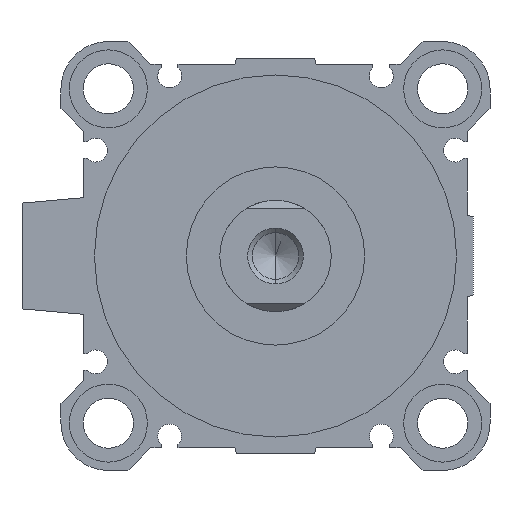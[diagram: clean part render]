
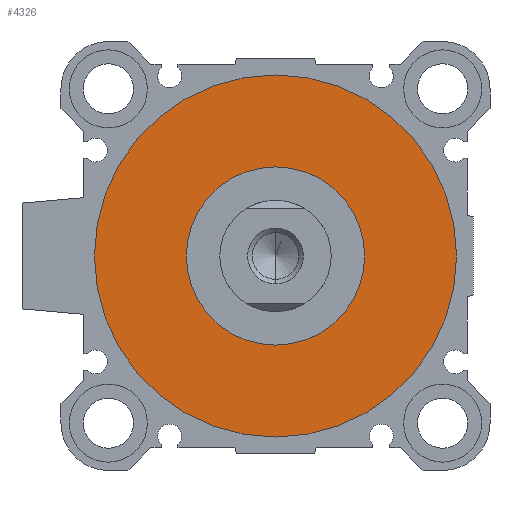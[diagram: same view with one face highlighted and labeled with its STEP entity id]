
A CAD part, left-side view. The second image highlights one B-rep face of the part: STEP entity #4326.
In plain terms, the highlighted planar face has unit normal (-1, 0, 0).
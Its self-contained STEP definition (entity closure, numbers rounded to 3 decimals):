
#15 = VERTEX_POINT ( 'NONE', #4257 ) ;
#125 = FACE_BOUND ( 'NONE', #1974, .T. ) ;
#139 = EDGE_CURVE ( 'NONE', #2793, #15, #4576, .T. ) ;
#269 = CIRCLE ( 'NONE', #3349, 16. ) ;
#355 = CARTESIAN_POINT ( 'NONE',  ( 4., 0., -16. ) ) ;
#792 = EDGE_CURVE ( 'NONE', #15, #2793, #5422, .T. ) ;
#880 = ORIENTED_EDGE ( 'NONE', *, *, #792, .F. ) ;
#929 = VERTEX_POINT ( 'NONE', #1040 ) ;
#1040 = CARTESIAN_POINT ( 'NONE',  ( 4., 0., 16. ) ) ;
#1073 = AXIS2_PLACEMENT_3D ( 'NONE', #3961, #1824, #5264 ) ;
#1379 = CARTESIAN_POINT ( 'NONE',  ( 4., 0., 0. ) ) ;
#1395 = CARTESIAN_POINT ( 'NONE',  ( 4., 0., 0. ) ) ;
#1482 = AXIS2_PLACEMENT_3D ( 'NONE', #3902, #3543, #5207 ) ;
#1631 = VERTEX_POINT ( 'NONE', #355 ) ;
#1741 = CARTESIAN_POINT ( 'NONE',  ( 4., 0., 0. ) ) ;
#1824 = DIRECTION ( 'NONE',  ( 1., 0., 0. ) ) ;
#1974 = EDGE_LOOP ( 'NONE', ( #4365, #2432 ) ) ;
#2295 = DIRECTION ( 'NONE',  ( 1., 0., 0. ) ) ;
#2387 = AXIS2_PLACEMENT_3D ( 'NONE', #1741, #4593, #3041 ) ;
#2432 = ORIENTED_EDGE ( 'NONE', *, *, #3955, .T. ) ;
#2793 = VERTEX_POINT ( 'NONE', #3182 ) ;
#2986 = PLANE ( 'NONE',  #2387 ) ;
#3041 = DIRECTION ( 'NONE',  ( 0., 1., 0. ) ) ;
#3182 = CARTESIAN_POINT ( 'NONE',  ( 4., 0., 32.5 ) ) ;
#3310 = ORIENTED_EDGE ( 'NONE', *, *, #139, .F. ) ;
#3349 = AXIS2_PLACEMENT_3D ( 'NONE', #1379, #2295, #4776 ) ;
#3543 = DIRECTION ( 'NONE',  ( 1., 0., 0. ) ) ;
#3598 = EDGE_CURVE ( 'NONE', #929, #1631, #269, .T. ) ;
#3902 = CARTESIAN_POINT ( 'NONE',  ( 4., 0., 0. ) ) ;
#3955 = EDGE_CURVE ( 'NONE', #1631, #929, #4220, .T. ) ;
#3961 = CARTESIAN_POINT ( 'NONE',  ( 4., 0., 0. ) ) ;
#4122 = DIRECTION ( 'NONE',  ( 1., 0., 0. ) ) ;
#4220 = CIRCLE ( 'NONE', #4654, 16. ) ;
#4257 = CARTESIAN_POINT ( 'NONE',  ( 4., 0., -32.5 ) ) ;
#4326 = ADVANCED_FACE ( 'NONE', ( #5052, #125 ), #2986, .F. ) ;
#4365 = ORIENTED_EDGE ( 'NONE', *, *, #3598, .T. ) ;
#4576 = CIRCLE ( 'NONE', #1073, 32.5 ) ;
#4593 = DIRECTION ( 'NONE',  ( 1., 0., 0. ) ) ;
#4636 = EDGE_LOOP ( 'NONE', ( #3310, #880 ) ) ;
#4654 = AXIS2_PLACEMENT_3D ( 'NONE', #1395, #4122, #4989 ) ;
#4776 = DIRECTION ( 'NONE',  ( 0., 0., -1. ) ) ;
#4989 = DIRECTION ( 'NONE',  ( 0., 0., -1. ) ) ;
#5052 = FACE_OUTER_BOUND ( 'NONE', #4636, .T. ) ;
#5207 = DIRECTION ( 'NONE',  ( 0., 0., -1. ) ) ;
#5264 = DIRECTION ( 'NONE',  ( 0., 0., -1. ) ) ;
#5422 = CIRCLE ( 'NONE', #1482, 32.5 ) ;
